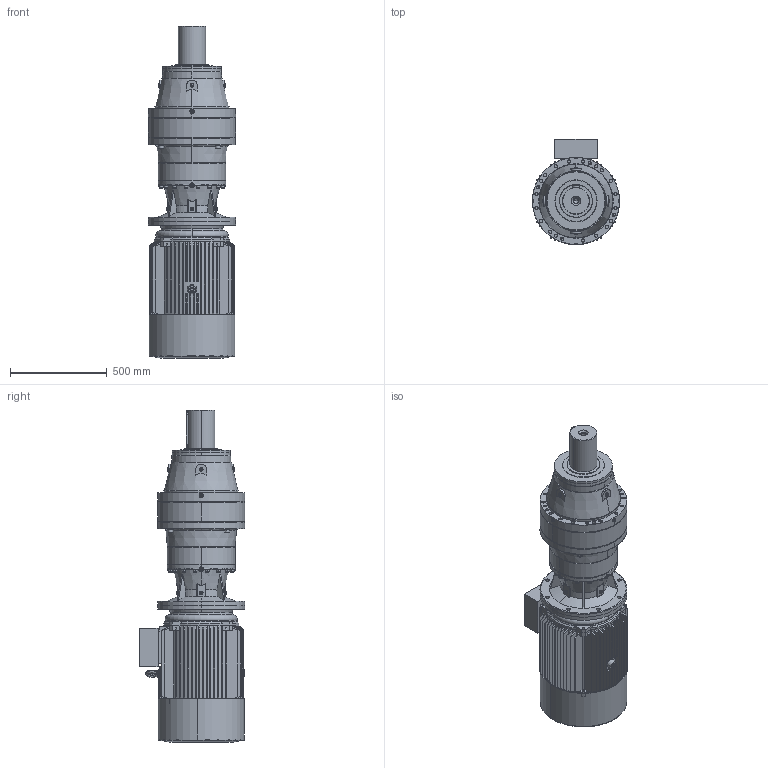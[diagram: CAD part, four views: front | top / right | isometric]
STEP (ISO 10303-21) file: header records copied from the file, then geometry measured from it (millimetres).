
FILE_DESCRIPTION (( 'STEP AP203' ), '1' );
FILE_NAME ('PVL-3502L-HS225M-4.STEP', '2019-05-27T08:54:15', ( '' ), ( '' ), 'SwSTEP 2.0', 'SolidWorks 2012', '' );
FILE_SCHEMA (( 'CONFIG_CONTROL_DESIGN' ));
Length unit declared in the file: millimetre
Products named in the file (17): EK3502L_Varsayìlan; Y2-225MB5+À+¿_-++ñ; FL17A_Varsayìlan; PNL_3502L_0_0_A22_B5_ML55A_FL17A_0_0_0_0_0_0_0_0_0_0_0_M1; ML55A_Varsayìlan; 23225B5_Varsayìlan; P35_Varsayìlan; PVL-3502L-HS225M-4; Y2-225-4-¯ª­-È®+_-++ñ; M3-HS225M-4p-FF-B5; M3-225M-4p-FF-B5; Eyebolts GB_GB_FASTENER_SCREWS_FRS M16-N_1; Plain parallel keys_GB_CONNECTING_PIECE_KEYS_CSK 18X125; 225-4-ª+-_-++ñ; 225-4-¯+²ª¦+¦_-++ñ; 225-4-¯+²_-++ñ; Y2-225+¦i-_-++ñ
Assembly tree (16 placements, depth 5):
  PVL-3502L-HS225M-4
    PNL_3502L_0_0_A22_B5_ML55A_FL17A_0_0_0_0_0_0_0_0_0_0_0_M1
      P35_Varsayìlan
      23225B5_Varsayìlan
      ML55A_Varsayìlan
      EK3502L_Varsayìlan
      FL17A_Varsayìlan
    M3-HS225M-4p-FF-B5
      M3-225M-4p-FF-B5
        Y2-225MB5+À+¿_-++ñ
        Y2-225+¦i-_-++ñ
        225-4-¯+²ª¦+¦_-++ñ
          225-4-¯+²_-++ñ
          Plain parallel keys_GB_CONNECTING_PIECE_KEYS_CSK 18X125
        225-4-ª+-_-++ñ
        Y2-225-4-¯ª­-È®+_-++ñ
        Eyebolts GB_GB_FASTENER_SCREWS_FRS M16-N_1
Bounding box: 450 x 545 x 1716 mm (x, y, z)
Volume: 101550300.4 mm3; surface area: 6739712.3 mm2
Topology: 18 solids, 18 shells, 2352 faces, 6131 edges, 3894 vertices
Faces by surface type: plane 882, cylinder 804, cone 331, bspline 316, torus 19
Entity records: 92646 total; most frequent: CARTESIAN_POINT 34590, ORIENTED_EDGE 12134, DIRECTION 11388, EDGE_CURVE 6067, AXIS2_PLACEMENT_3D 4452, VERTEX_POINT 3894, EDGE_LOOP 2761, VECTOR 2484
